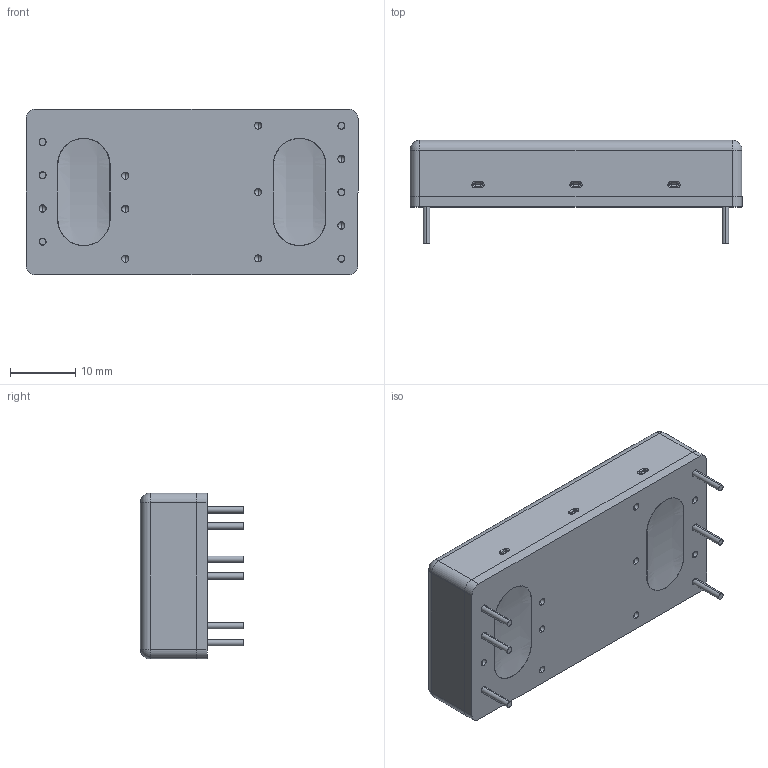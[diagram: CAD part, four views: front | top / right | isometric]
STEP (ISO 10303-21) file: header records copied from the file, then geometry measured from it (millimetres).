
FILE_DESCRIPTION (( 'STEP AP214' ), '1' );
FILE_NAME ('RDDW20H²Õ¦X¥ó-1090520.STEP', '2020-05-20T09:44:50', ( '' ), ( '' ), 'SwSTEP 2.0', 'SolidWorks 2017', '' );
FILE_SCHEMA (( 'AUTOMOTIVE_DESIGN' ));
Length unit declared in the file: millimetre
Products named in the file (5): RDDW20H 灌膠示意圖-1090520; RDDW20H CASE-1090520; RDDW20H BASE-1090520; RDDW20H PCB版示意圖-1090520; RDDW20H組合件-1090520
Assembly tree (4 placements, depth 2):
  RDDW20H組合件-1090520
    RDDW20H CASE-1090520
    RDDW20H BASE-1090520
    RDDW20H PCB版示意圖-1090520
    RDDW20H 灌膠示意圖-1090520
Bounding box: 50.8 x 15.8 x 25.4 mm (x, y, z)
Volume: 14285 mm3; surface area: 14609.7 mm2
Topology: 10 solids, 10 shells, 519 faces, 1299 edges, 826 vertices
Faces by surface type: plane 185, cylinder 170, torus 66, cone 66, sphere 30, bspline 2
Entity records: 16999 total; most frequent: CARTESIAN_POINT 3771, DIRECTION 2884, ORIENTED_EDGE 2574, EDGE_CURVE 1287, AXIS2_PLACEMENT_3D 1127, VERTEX_POINT 826, LINE 630, VECTOR 630
